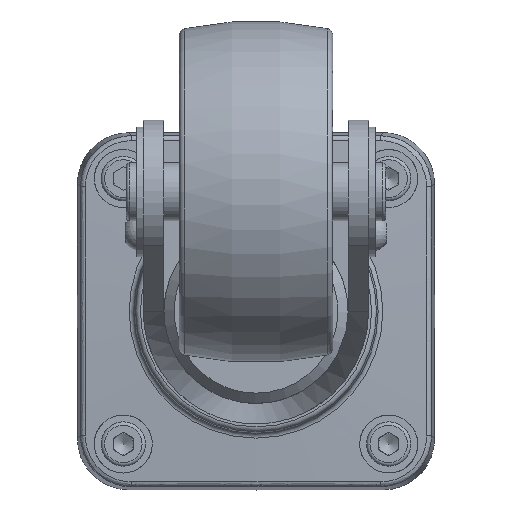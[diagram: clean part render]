
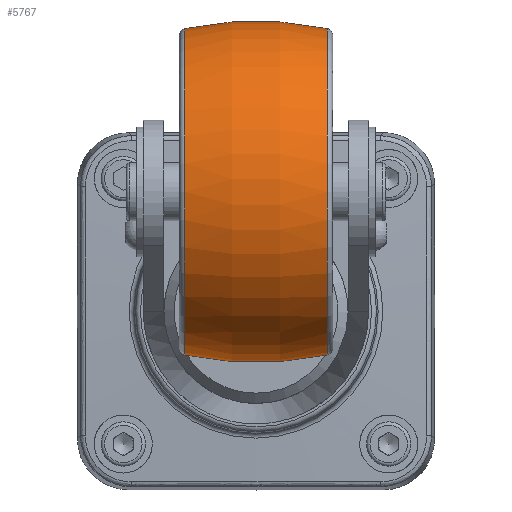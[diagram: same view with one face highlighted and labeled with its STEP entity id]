
A CAD part, front view. The second image highlights one B-rep face of the part: STEP entity #5767.
In plain terms, the highlighted toroidal (fillet/blend) face has major radius 50 mm and minor radius 100 mm.
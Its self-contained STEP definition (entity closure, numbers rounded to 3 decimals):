
#299 = CIRCLE ( 'NONE', #11934, 47.788 ) ;
#537 = DIRECTION ( 'NONE',  ( -1., 0., 0. ) ) ;
#1113 = CARTESIAN_POINT ( 'NONE',  ( 12.547, -73.298, 191.09 ) ) ;
#2512 = EDGE_LOOP ( 'NONE', ( #5000 ) ) ;
#2717 = ORIENTED_EDGE ( 'NONE', *, *, #11278, .T. ) ;
#3233 = TOROIDAL_SURFACE ( 'NONE', #9351, -50., 100. ) ;
#3381 = CARTESIAN_POINT ( 'NONE',  ( -8.372, -73.298, 143.302 ) ) ;
#4050 = EDGE_LOOP ( 'NONE', ( #2717 ) ) ;
#4103 = AXIS2_PLACEMENT_3D ( 'NONE', #8964, #10768, #7968 ) ;
#4121 = CIRCLE ( 'NONE', #4103, 47.788 ) ;
#4444 = CARTESIAN_POINT ( 'NONE',  ( -29.29, -73.298, 143.302 ) ) ;
#5000 = ORIENTED_EDGE ( 'NONE', *, *, #7620, .T. ) ;
#5335 = DIRECTION ( 'NONE',  ( 1., 0., 0. ) ) ;
#5767 = ADVANCED_FACE ( 'NONE', ( #11185, #8628 ), #3233, .T. ) ;
#7620 = EDGE_CURVE ( 'NONE', #12065, #12065, #4121, .T. ) ;
#7968 = DIRECTION ( 'NONE',  ( 0., 0., 1. ) ) ;
#8293 = DIRECTION ( 'NONE',  ( 0., 0., -1. ) ) ;
#8628 = FACE_OUTER_BOUND ( 'NONE', #2512, .T. ) ;
#8964 = CARTESIAN_POINT ( 'NONE',  ( 12.547, -73.298, 143.302 ) ) ;
#9001 = CARTESIAN_POINT ( 'NONE',  ( -29.29, -73.298, 95.515 ) ) ;
#9348 = VERTEX_POINT ( 'NONE', #9001 ) ;
#9351 = AXIS2_PLACEMENT_3D ( 'NONE', #3381, #537, #12128 ) ;
#10768 = DIRECTION ( 'NONE',  ( -1., 0., 0. ) ) ;
#11185 = FACE_OUTER_BOUND ( 'NONE', #4050, .T. ) ;
#11278 = EDGE_CURVE ( 'NONE', #9348, #9348, #299, .T. ) ;
#11934 = AXIS2_PLACEMENT_3D ( 'NONE', #4444, #5335, #8293 ) ;
#12065 = VERTEX_POINT ( 'NONE', #1113 ) ;
#12128 = DIRECTION ( 'NONE',  ( 0., 0., 1. ) ) ;
